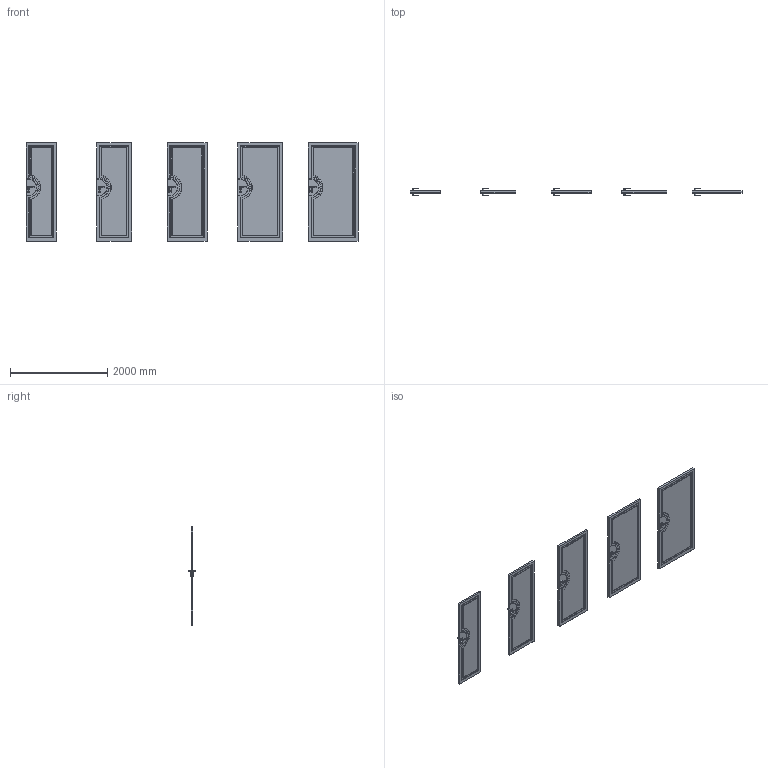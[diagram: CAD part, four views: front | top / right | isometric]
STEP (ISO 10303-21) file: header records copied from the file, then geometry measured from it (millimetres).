
FILE_DESCRIPTION(/* description */ (''),/* implementation_level */ '2;1');
FILE_NAME(/* name */ '049848_A_1-Skrzydło ART DECO model 5_ polska norma _PN__ bezprzylgowe.stp',/* time_stamp */ '2024-09-12T13:38:43+02:00',/* author */ (''),/* organization */ (''),/* preprocessor_version */ 'ST-DEVELOPER v16',/* originating_system */ 'SIEMENS PLM Software NX 11.0',/* authorisation */ '');
FILE_SCHEMA (('AUTOMOTIVE_DESIGN { 1 0 10303 214 3 1 1 1 }'));
Products named in the file (1): msmo358C2A05p60p
Bounding box: 6818 x 153.13 x 2017 mm (x, y, z)
Volume: 324265462 mm3; surface area: 17915921.2 mm2
Topology: 25 solids, 25 shells, 2200 faces, 5090 edges, 2880 vertices
Faces by surface type: cylinder 700, plane 660, bspline 280, torus 240, cone 180, sphere 140
Entity records: 67829 total; most frequent: CARTESIAN_POINT 19211, DIRECTION 10492, ORIENTED_EDGE 9900, EDGE_CURVE 4950, AXIS2_PLACEMENT_3D 4041, VERTEX_POINT 2880, LINE 2410, VECTOR 2410
